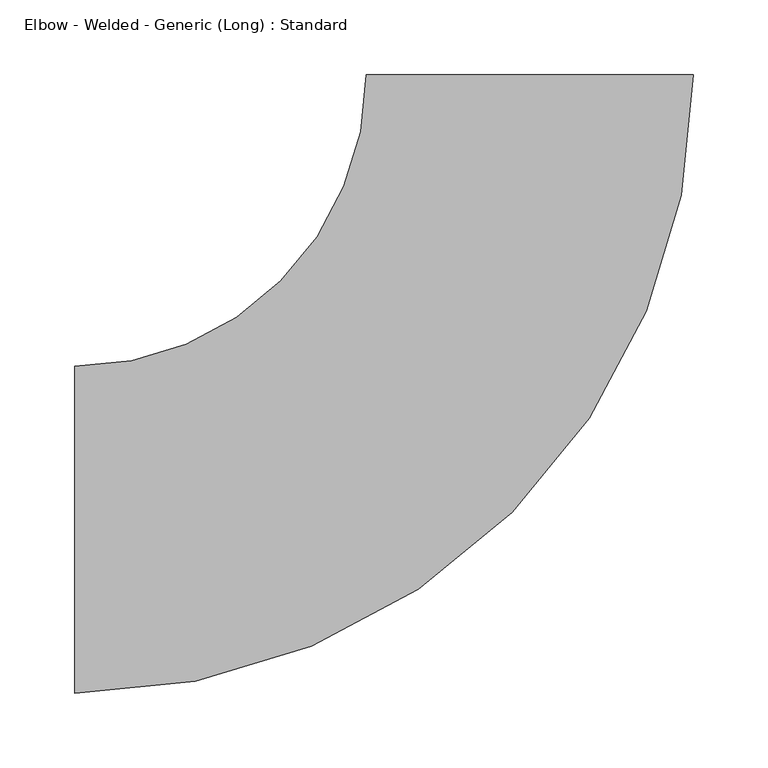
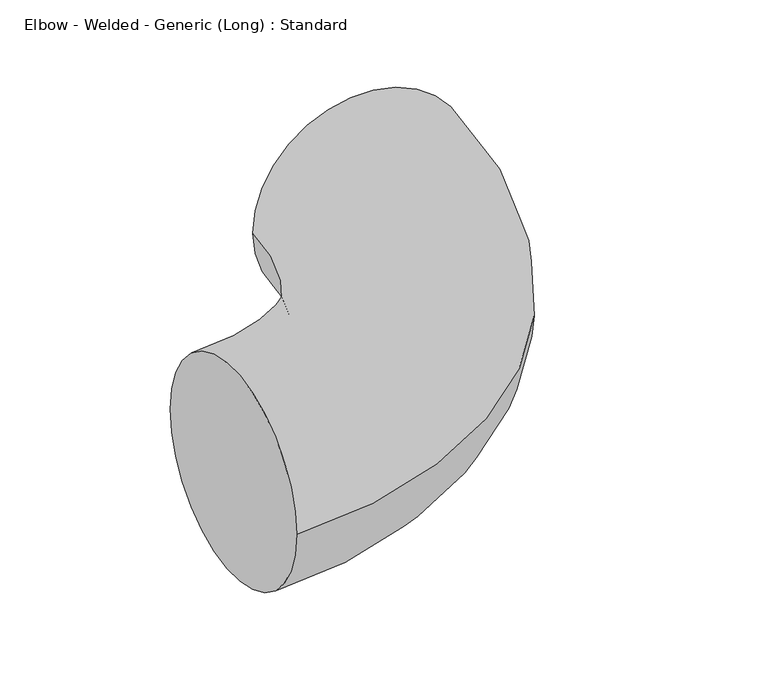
"""IFC4 building model written with IfcOpenShell, lengths in millimetres: pipe fitting geometry, Elbow - Welded - Generic (Long) : Standard."""

from ifc_helpers import new_model, si_unit, point, frame, origin, place, context, project, spatial, circle_curve, ellipse_curve, trimmed, source, transform, mapped, element, save
from ifc_brep_helpers import plane_surface, revolved_surface, advanced_brep


def elbow_welded_generic_long_standard_abbd9305(model_context):
    return source(origin(), model_context, "Body", "AdvancedBrep", [
        advanced_brep(
        [(-304.8, -109.5375, 0.0), (-304.8, 109.5375, 0.0), (109.5349047, 304.8009327, 0.0), (-109.5400953, 304.7990673, 0.0)],
        [
            (0, 1, circle_curve(frame((-304.8, 0.0, 0.0), z_axis=(-1.0, 0.0, 0.0), x_axis=(0.0, 1.0, 0.0)), 109.5375)),
            (1, 0, circle_curve(frame((-304.8, 0.0, 0.0), z_axis=(-1.0, 0.0, 0.0), x_axis=(0.0, 1.0, 0.0)), 109.5375)),
            (2, 3, circle_curve(frame((-0.0025953, 304.8, 0.0), z_axis=(-8.514640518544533e-06, 0.9999999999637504, 0.0), x_axis=(-0.9999999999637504, -8.514640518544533e-06, 0.0)), 109.5375)),
            (3, 2, circle_curve(frame((-0.0025953, 304.8, 0.0), z_axis=(-8.514640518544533e-06, 0.9999999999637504, 0.0), x_axis=(-0.9999999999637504, -8.514640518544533e-06, 0.0)), 109.5375)),
            (3, 1, circle_curve(frame((-304.8, 304.7974047, 0.0), z_axis=(0.0, 0.0, -1.0), x_axis=(0.0, -1.0, 0.0)), 195.2599047)),
            (0, 2, circle_curve(frame((-304.8, 304.7974047, 0.0), z_axis=(0.0, 0.0, 1.0), x_axis=(0.0, -1.0, 0.0)), 414.3349047)),
        ],
        [
            plane_surface(frame((-304.8, 0.0, 0.0), z_axis=(-1.0, 0.0, 0.0), x_axis=(0.0, 0.0, 1.0))),
            plane_surface(frame((-0.0025953, 304.8, 0.0), z_axis=(-8.514640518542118e-06, 0.9999999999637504, 0.0), x_axis=(0.0, 0.0, 1.0))),
            revolved_surface(trimmed(ellipse_curve(frame((-304.8, 0.0, 0.0), z_axis=(-1.0, 0.0, 0.0), x_axis=(0.0, 1.0, 0.0)), 109.5375, 109.5375), [point((-304.8, -109.5375, 0.0))], [point((-304.8, 109.5375, 0.0))], True, "CARTESIAN"), (-304.8, 304.7974047, 0.0), (0.0, 0.0, 1.0)),
            revolved_surface(trimmed(ellipse_curve(frame((-304.8, 0.0, 0.0), z_axis=(-1.0, 0.0, 0.0), x_axis=(0.0, 1.0, 0.0)), 109.5375, 109.5375), [point((-304.8, 109.5375, 0.0))], [point((-304.8, -109.5375, 0.0))], True, "CARTESIAN"), (-304.8, 304.7974047, 0.0), (0.0, 0.0, 1.0)),
        ],
        [
            (0, [[1, 2]]),
            (1, [[3, 4]]),
            (2, [[5, -1, 6, -4]]),
            (3, [[-6, -2, -5, -3]]),
        ],
    ),
    ])


if __name__ == "__main__":
    model = new_model("IFC4")
    model_context = context("Model", 3, world=origin())
    ifc_project = project(units=[si_unit("LENGTHUNIT", "METRE", prefix="MILLI")], contexts=[model_context])
    site = spatial("IfcSite", under=ifc_project)
    building = spatial("IfcBuilding", under=site)
    placement = place(None, origin())
    elbow_welded_generic_long_standard_shape = elbow_welded_generic_long_standard_abbd9305(model_context)
    element("IfcPipeFitting", 1, ObjectType="Elbow - Welded - Generic (Long) : Standard", at=placement, inside=building, context=model_context, shape_type="MappedRepresentation", body=[
        mapped(elbow_welded_generic_long_standard_shape, transform((0.0, 0.0, 0.0), x_axis=(1.0, 0.0, 0.0), y_axis=(0.0, 1.0, 0.0), z_axis=(0.0, 0.0, 1.0))),
    ])
    save(model, "model.ifc")
